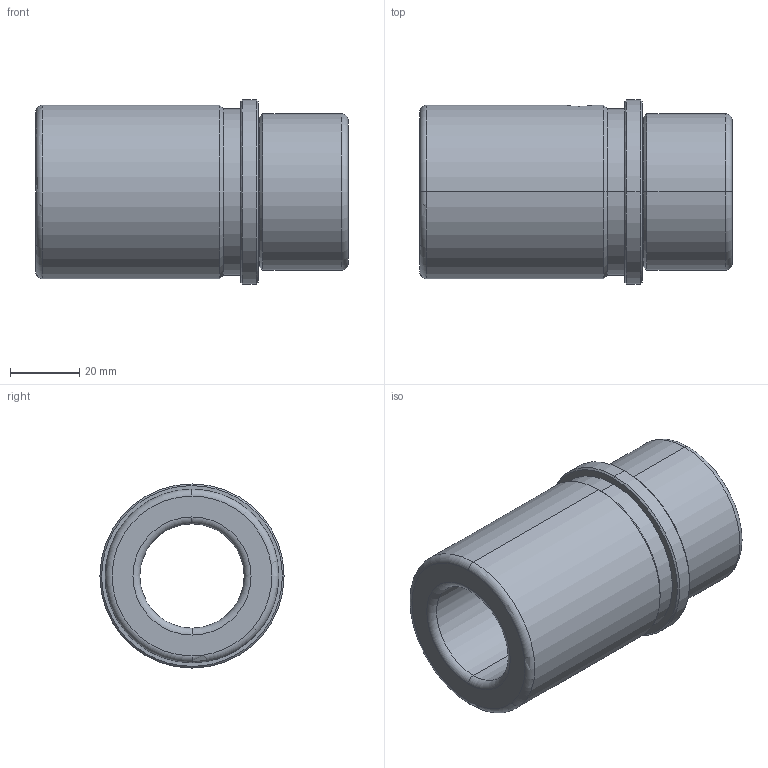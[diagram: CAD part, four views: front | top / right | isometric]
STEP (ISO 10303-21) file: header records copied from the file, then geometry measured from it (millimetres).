
FILE_DESCRIPTION(('CATIA V5 STEP Exchange'),'2;1');
FILE_NAME('C:\Users\Utente\Desktop\IO LAVORO\3D X SITO CF\X SITO\FAMO\FAMO-SF1-E30 x 90.stp','2021-01-06T17:02:11+00:00',('none'),('none'),'CATIA Version 5 Release 20 GA (IN-10)','CATIA V5 STEP AP203','none');
FILE_SCHEMA(('CONFIG_CONTROL_DESIGN'));
Length unit declared in the file: millimetre
Products named in the file (1): FAMO-SF1-E30 x 90
Bounding box: 90 x 53 x 53 mm (x, y, z)
Volume: 102352.7 mm3; surface area: 25464.9 mm2
Topology: 1 solids, 1 shells, 37 faces, 126 edges, 94 vertices
Faces by surface type: cylinder 14, cone 10, torus 8, plane 5
Entity records: 1647 total; most frequent: CARTESIAN_POINT 515, ORIENTED_EDGE 252, DIRECTION 180, EDGE_CURVE 126, AXIS2_PLACEMENT_3D 120, VERTEX_POINT 94, CIRCLE 82, EDGE_LOOP 44
